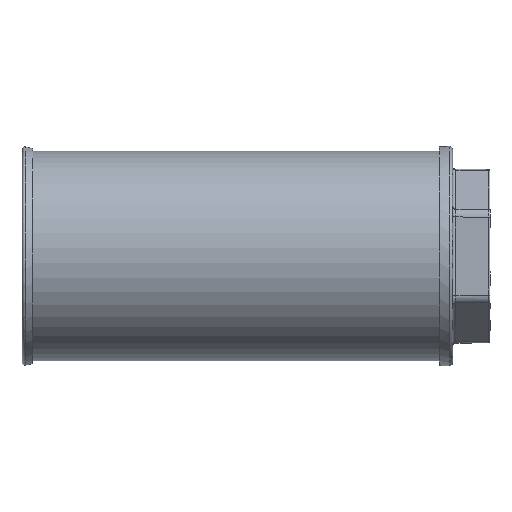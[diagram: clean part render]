
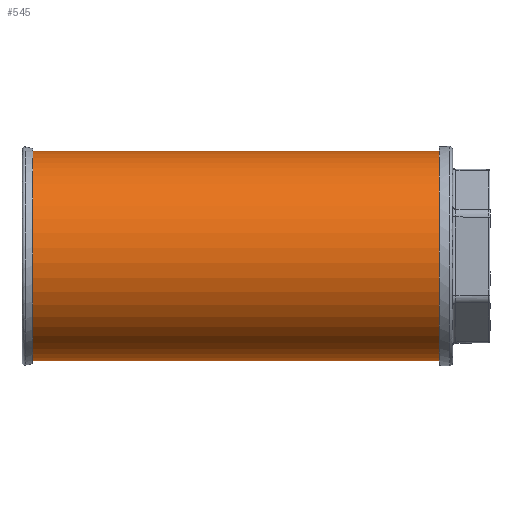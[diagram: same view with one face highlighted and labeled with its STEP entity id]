
A CAD part, left-side view. The second image highlights one B-rep face of the part: STEP entity #545.
In plain terms, the highlighted free-form (B-spline) face has degree [2, 1] with [7, 2] control points.
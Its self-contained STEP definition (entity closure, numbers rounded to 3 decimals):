
#473=CARTESIAN_POINT('V61',(74.406,5.894,
   0.));
#474=VERTEX_POINT('V61',#473);
#475=CARTESIAN_POINT('E105',(74.406,5.894,
   0.));
#476=CARTESIAN_POINT('E105',(74.406,5.894,
   -82.619));
#477=CARTESIAN_POINT('E105',(2.856,5.894,
   -41.309));
#478=CARTESIAN_POINT('E105',(-68.694,5.894,
   0.));
#479=CARTESIAN_POINT('E105',(2.856,5.894,
   41.309));
#480=CARTESIAN_POINT('E105',(74.406,5.894,
   82.619));
#481=CARTESIAN_POINT('E105',(74.406,5.894,
   0.));
#489=(BOUNDED_CURVE()B_SPLINE_CURVE(2,(#475,#476,#477,#478,#479,
   #480,#481),.CIRCULAR_ARC.,.T.,.U.)B_SPLINE_CURVE_WITH_KNOTS((3,
   2,2,3),(0.0,0.333,0.667,1.0),
   .UNSPECIFIED.)CURVE()GEOMETRIC_REPRESENTATION_ITEM()
   RATIONAL_B_SPLINE_CURVE((1.0,0.5,1.0,
   0.5,1.0,0.5,1.0))REPRESENTATION_ITEM(
   'E105'));
#490=EDGE_CURVE('E105',#474,#474,#489,.T.);
#495=CARTESIAN_POINT('F51',(74.406,10.287,
   0.));
#496=CARTESIAN_POINT('F51',(74.406,10.287,
   82.619));
#497=CARTESIAN_POINT('F51',(2.856,10.287,
   41.309));
#498=CARTESIAN_POINT('F51',(-68.694,10.287,
   0.));
#499=CARTESIAN_POINT('F51',(2.856,10.287,
   -41.309));
#500=CARTESIAN_POINT('F51',(74.406,10.287,
   -82.619));
#501=CARTESIAN_POINT('F51',(74.406,10.287,
   0.));
#502=CARTESIAN_POINT('F51',(74.406,-183.713,
   0.));
#503=CARTESIAN_POINT('F51',(74.406,-183.713,
   82.619));
#504=CARTESIAN_POINT('F51',(2.856,-183.713,
   41.309));
#505=CARTESIAN_POINT('F51',(-68.694,-183.713,
   0.));
#506=CARTESIAN_POINT('F51',(2.856,-183.713,
   -41.309));
#507=CARTESIAN_POINT('F51',(74.406,-183.713,
   -82.619));
#508=CARTESIAN_POINT('F51',(74.406,-183.713,
   0.));
#516=(BOUNDED_SURFACE()B_SPLINE_SURFACE(2,1,((#495,#502),(#496,
   #503),(#497,#504),(#498,#505),(#499,#506),(#500,#507),(
   #501,#508)),.CYLINDRICAL_SURF.,.T.,.F.,.U.)
   B_SPLINE_SURFACE_WITH_KNOTS((3,2,2,3),(2,2),(0.0,
   0.852,1.703,2.555),(0.0,1.0),
   .UNSPECIFIED.)GEOMETRIC_REPRESENTATION_ITEM()
   RATIONAL_B_SPLINE_SURFACE(((1.0,1.0),(0.5,
   0.5),(1.0,1.0),(0.5,
   0.5),(1.0,1.0),(0.5,
   0.5),(1.0,1.0)))REPRESENTATION_ITEM('F51')SURFACE(
   ));
#517=CARTESIAN_POINT('V63',(74.406,-179.213,
   0.));
#518=VERTEX_POINT('V63',#517);
#519=CARTESIAN_POINT('E108',(74.406,-179.213,
   0.));
#520=CARTESIAN_POINT('E108',(74.406,-179.213,
   -82.619));
#521=CARTESIAN_POINT('E108',(2.856,-179.213,
   -41.309));
#522=CARTESIAN_POINT('E108',(-68.694,
   -179.213,0.));
#523=CARTESIAN_POINT('E108',(2.856,-179.213,
   41.309));
#524=CARTESIAN_POINT('E108',(74.406,-179.213,
   82.619));
#525=CARTESIAN_POINT('E108',(74.406,-179.213,
   0.));
#533=(BOUNDED_CURVE()B_SPLINE_CURVE(2,(#519,#520,#521,#522,#523,
   #524,#525),.CIRCULAR_ARC.,.T.,.U.)B_SPLINE_CURVE_WITH_KNOTS((3,
   2,2,3),(0.0,0.333,0.667,1.0),
   .UNSPECIFIED.)CURVE()GEOMETRIC_REPRESENTATION_ITEM()
   RATIONAL_B_SPLINE_CURVE((1.0,0.5,1.0,
   0.5,1.0,0.5,1.0))REPRESENTATION_ITEM(
   'E108'));
#534=EDGE_CURVE('E108',#518,#518,#533,.T.);
#535=ORIENTED_EDGE('E108',*,*,#534,.T.);
#536=CARTESIAN_POINT('E109',(74.406,5.894,
   0.0));
#537=CARTESIAN_POINT('E109',(74.406,-179.213,
   0.0));
#538=B_SPLINE_CURVE_WITH_KNOTS('E109',1,(#536,#537),.POLYLINE_FORM.,
   .F.,.U.,(2,2),(0.023,0.977),
   .UNSPECIFIED.);
#539=EDGE_CURVE('E109',#474,#518,#538,.T.);
#540=ORIENTED_EDGE('E109',*,*,#539,.F.);
#541=ORIENTED_EDGE('F49',*,*,#490,.F.);
#542=ORIENTED_EDGE('E109',*,*,#539,.T.);
#543=EDGE_LOOP('F51',(#535,#540,#541,#542));
#544=FACE_OUTER_BOUND('F51',#543,.T.);
#545=ADVANCED_FACE('F51',(#544),#516,.T.);
